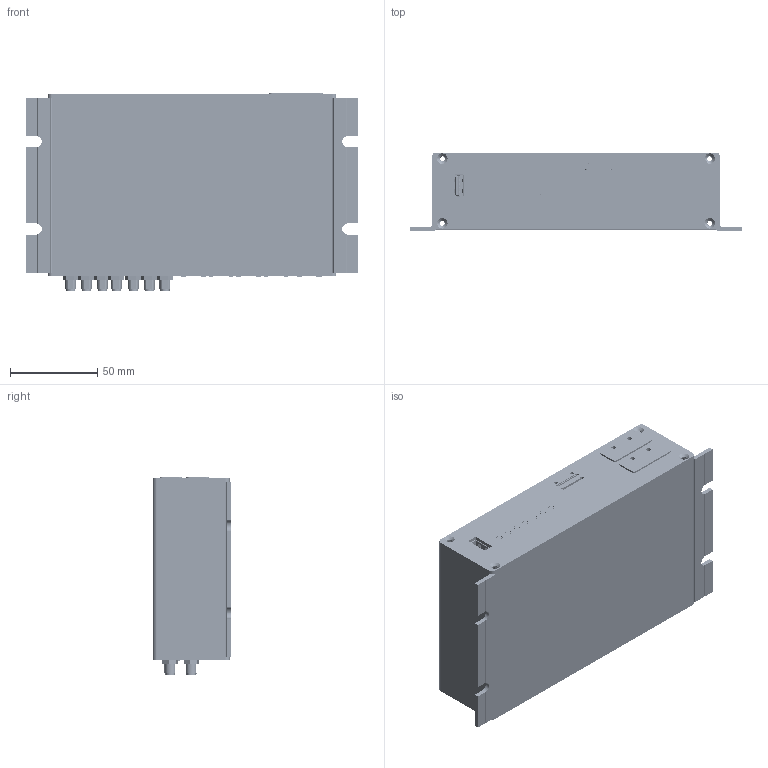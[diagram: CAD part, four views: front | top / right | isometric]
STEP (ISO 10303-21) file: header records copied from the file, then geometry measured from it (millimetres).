
FILE_DESCRIPTION(/* description */ ('Alibre Inc.'),/* implementation_level */ '2;1');
FILE_NAME(/* name */ 'export0',/* time_stamp */ '2015-03-20T13:58:52+01:00',/* author */ (''),/* organization */ (''),/* preprocessor_version */ 'ST-DEVELOPER v12',/* originating_system */ 'Alibre',/* authorisation */ '');
FILE_SCHEMA (('CONFIG_CONTROL_DESIGN'));
Products named in the file (1580): ID_1; ID_2; ID_3; ID_4; ID_5; ID_6; ID_7; ID_8; ID_9; ID_10; ID_11; ID_12; ID_13; ID_14; ID_15; ID_16; ID_17; ID_18; ID_19; ID_20; ID_21; ID_22; ID_23; ID_24; ID_25; ID_26; ID_27; ID_28; ID_29; ID_30; ID_31; ID_32; ID_33; ID_34; ID_35; ID_36; ID_37; ID_38; ID_39; ID_40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
Bounding box: 190 x 45 x 113.62 mm (x, y, z)
Volume: 300829.4 mm3; surface area: 309340.8 mm2
Topology: 4023 solids, 4023 shells, 40291 faces, 94841 edges, 62604 vertices
Faces by surface type: plane 37038, cylinder 2964, cone 183, bspline 106
Full cylindrical faces by diameter (mm): 0.3 x4, 0.8 x4, 0.889 x60, 0.92 x5, 1 x54, 1.1 x3, 1.2 x20, 1.3 x2, 1.4 x2, 1.5 x17, 1.6 x11, 2.013 x6, 2.5 x7, 2.6 x6, 2.7 x2, 3 x13, 3.2 x18, 3.25 x2, 3.3 x6, 3.5 x7, 4.6 x7, 5 x7, 5.3 x7, 6 x1, 6.3 x14
Entity records: 677899 total; most frequent: CARTESIAN_POINT 84951, DIRECTION 72208, ORIENTED_EDGE 67420, EDGE_CURVE 33708, VECTOR 29442, LINE 29442, AXIS2_PLACEMENT_3D 26388, PERSON_AND_ORGANIZATION 23412
